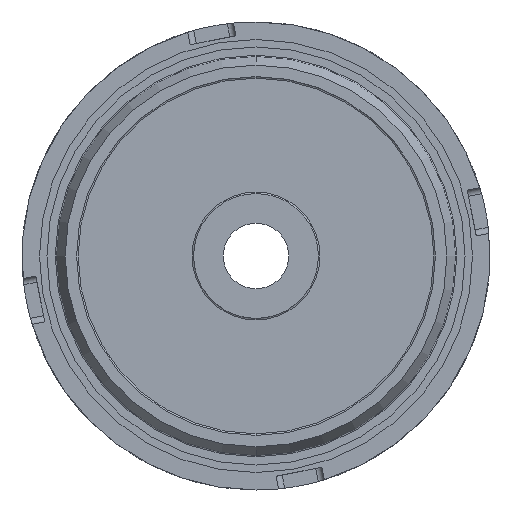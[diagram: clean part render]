
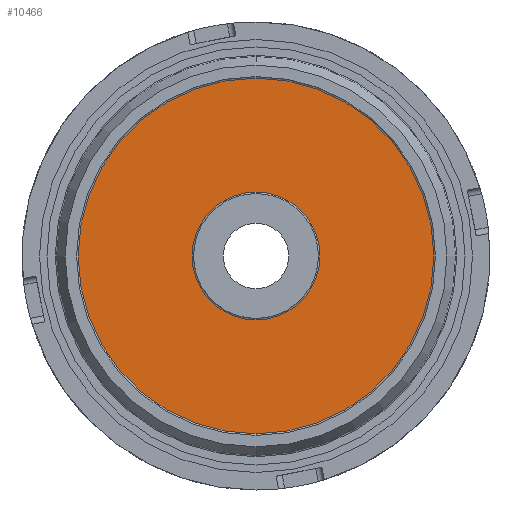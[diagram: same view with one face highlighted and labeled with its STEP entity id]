
A CAD part, front view. The second image highlights one B-rep face of the part: STEP entity #10466.
In plain terms, the highlighted planar face has unit normal (0, -1, 0).
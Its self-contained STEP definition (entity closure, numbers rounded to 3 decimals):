
#233 = CARTESIAN_POINT ( 'NONE',  ( 0., 6., 0. ) ) ;
#311 = VERTEX_POINT ( 'NONE', #54323 ) ;
#765 = AXIS2_PLACEMENT_3D ( 'NONE', #54630, #23181, #59922 ) ;
#2868 = CARTESIAN_POINT ( 'NONE',  ( 0., 6., 0. ) ) ;
#4306 = ORIENTED_EDGE ( 'NONE', *, *, #66747, .T. ) ;
#4810 = EDGE_LOOP ( 'NONE', ( #42733, #66644 ) ) ;
#5483 = DIRECTION ( 'NONE',  ( 0., 0., -1. ) ) ;
#7208 = FACE_BOUND ( 'NONE', #53268, .T. ) ;
#7973 = CIRCLE ( 'NONE', #34594, 20.5 ) ;
#10466 = ADVANCED_FACE ( 'NONE', ( #47543, #7208 ), #13410, .T. ) ;
#11293 = EDGE_CURVE ( 'NONE', #27266, #29132, #41732, .T. ) ;
#11493 = EDGE_CURVE ( 'NONE', #57468, #311, #16152, .T. ) ;
#13410 = PLANE ( 'NONE',  #58826 ) ;
#16152 = CIRCLE ( 'NONE', #67620, 57. ) ;
#18733 = DIRECTION ( 'NONE',  ( 0., 0., -1. ) ) ;
#19718 = CARTESIAN_POINT ( 'NONE',  ( 0., 6., 0. ) ) ;
#20962 = DIRECTION ( 'NONE',  ( 0., -1., 0. ) ) ;
#21267 = CARTESIAN_POINT ( 'NONE',  ( 0., 6., -20.5 ) ) ;
#23181 = DIRECTION ( 'NONE',  ( 0., 1., 0. ) ) ;
#25003 = DIRECTION ( 'NONE',  ( 0., 0., -1. ) ) ;
#25292 = ORIENTED_EDGE ( 'NONE', *, *, #11293, .T. ) ;
#27266 = VERTEX_POINT ( 'NONE', #21267 ) ;
#29132 = VERTEX_POINT ( 'NONE', #46718 ) ;
#34594 = AXIS2_PLACEMENT_3D ( 'NONE', #233, #37018, #5483 ) ;
#37018 = DIRECTION ( 'NONE',  ( 0., 1., 0. ) ) ;
#37354 = EDGE_CURVE ( 'NONE', #311, #57468, #46242, .T. ) ;
#41732 = CIRCLE ( 'NONE', #765, 20.5 ) ;
#42733 = ORIENTED_EDGE ( 'NONE', *, *, #11493, .T. ) ;
#43834 = CARTESIAN_POINT ( 'NONE',  ( 0., 6., -57. ) ) ;
#46242 = CIRCLE ( 'NONE', #63331, 57. ) ;
#46718 = CARTESIAN_POINT ( 'NONE',  ( 0., 6., 20.5 ) ) ;
#47543 = FACE_OUTER_BOUND ( 'NONE', #4810, .T. ) ;
#50199 = DIRECTION ( 'NONE',  ( 0., -1., 0. ) ) ;
#52412 = CARTESIAN_POINT ( 'NONE',  ( 0., 6., 0. ) ) ;
#53268 = EDGE_LOOP ( 'NONE', ( #25292, #4306 ) ) ;
#54323 = CARTESIAN_POINT ( 'NONE',  ( 0., 6., 57. ) ) ;
#54630 = CARTESIAN_POINT ( 'NONE',  ( 0., 6., 0. ) ) ;
#56466 = DIRECTION ( 'NONE',  ( 0., -1., 0. ) ) ;
#57468 = VERTEX_POINT ( 'NONE', #43834 ) ;
#57700 = DIRECTION ( 'NONE',  ( 0., 0., -1. ) ) ;
#58826 = AXIS2_PLACEMENT_3D ( 'NONE', #2868, #50199, #18733 ) ;
#59922 = DIRECTION ( 'NONE',  ( 0., 0., -1. ) ) ;
#63331 = AXIS2_PLACEMENT_3D ( 'NONE', #52412, #20962, #57700 ) ;
#66644 = ORIENTED_EDGE ( 'NONE', *, *, #37354, .T. ) ;
#66747 = EDGE_CURVE ( 'NONE', #29132, #27266, #7973, .T. ) ;
#67620 = AXIS2_PLACEMENT_3D ( 'NONE', #19718, #56466, #25003 ) ;
